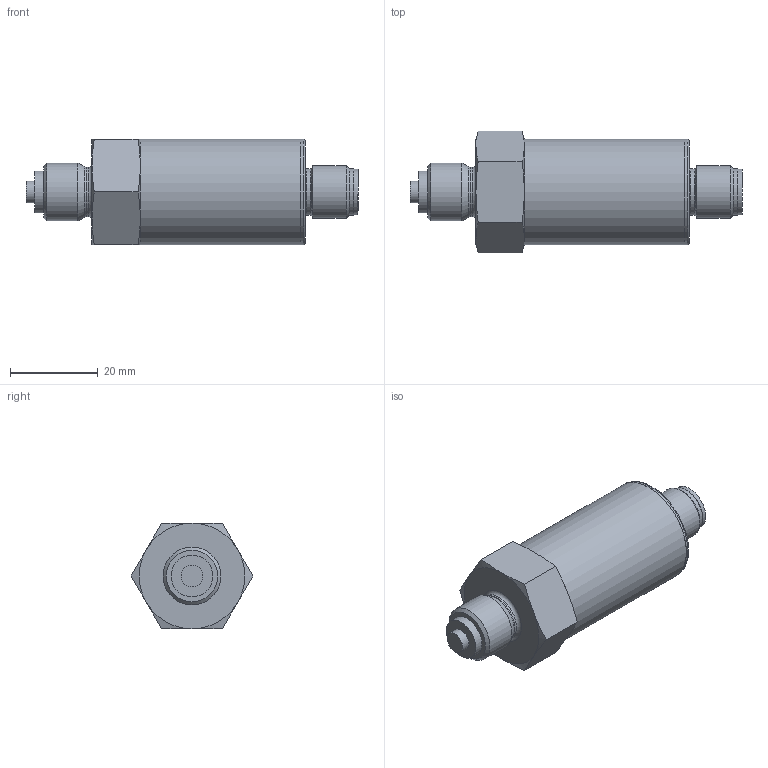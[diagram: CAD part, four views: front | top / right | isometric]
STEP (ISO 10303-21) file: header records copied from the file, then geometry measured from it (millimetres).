
FILE_DESCRIPTION(/* description */ (''),/* implementation_level */ '2;1');
FILE_NAME(/* name */ 'C:\Users\cz1166\Documents\STEP\17.600G-xxxx-R-x-x-M10-400-2-000.stp',/* time_stamp */ '2021-11-30T10:50:09+01:00',/* author */ ('cz1166'),/* organization */ (''),/* preprocessor_version */ 'ST-DEVELOPER v18.1',/* originating_system */ 'Autodesk Inventor 2021',/* authorisation */ '');
FILE_SCHEMA (('AUTOMOTIVE_DESIGN { 1 0 10303 214 3 1 1 }'));
Length unit declared in the file: millimetre
Products named in the file (1): 17.600G-xxxx-R-x-x-M10-400-2-000
Bounding box: 75.5 x 27.71 x 24 mm (x, y, z)
Volume: 25273.4 mm3; surface area: 5700.6 mm2
Topology: 1 solids, 1 shells, 45 faces, 94 edges, 57 vertices
Faces by surface type: cone 16, plane 14, cylinder 10, torus 5
Full cylindrical faces by diameter (mm): 5 x1, 9.5 x1, 10.4 x1, 10.6 x2, 11.2 x1, 12 x1, 13.16 x1, 23.95 x1, 24 x1
Entity records: 1300 total; most frequent: CARTESIAN_POINT 245, DIRECTION 212, ORIENTED_EDGE 188, AXIS2_PLACEMENT_3D 96, EDGE_CURVE 94, VERTEX_POINT 57, EDGE_LOOP 51, CIRCLE 50
